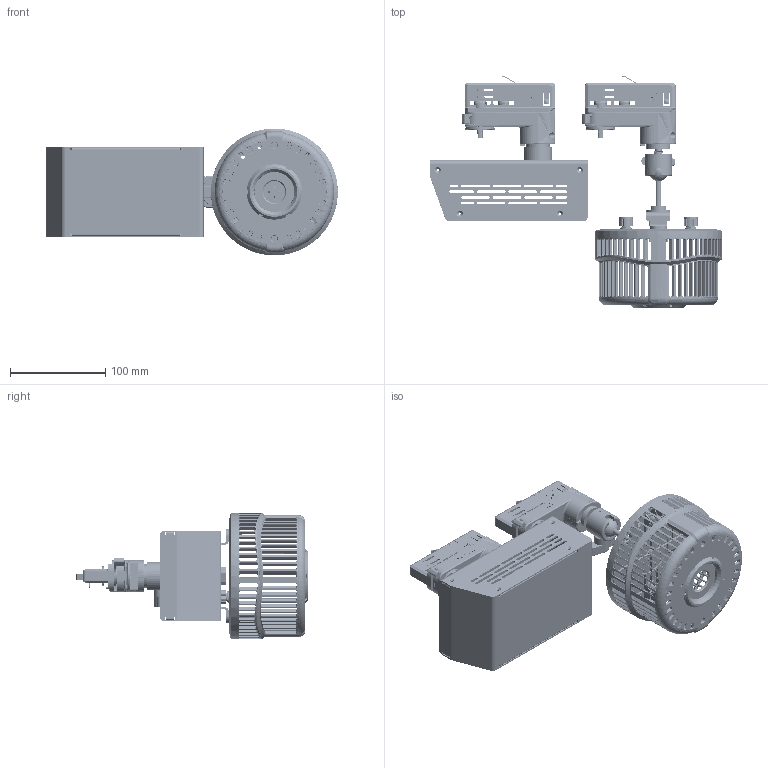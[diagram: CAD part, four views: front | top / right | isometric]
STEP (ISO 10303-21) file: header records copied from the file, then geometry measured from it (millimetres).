
FILE_DESCRIPTION (( 'STEP AP214' ), '1' );
FILE_NAME ('W500X-TOX-PS.STEP', '2024-01-31T17:34:29', ( '' ), ( '' ), 'SwSTEP 2.0', 'SolidWorks 2022', '' );
FILE_SCHEMA (( 'AUTOMOTIVE_DESIGN' ));
Length unit declared in the file: millimetre
Products named in the file (36): 5022427-XXX_A4_250W Power Box FRAME (TG&TEX&CLP TYPE), 165x95x64mm___; 5120522-XXX_A4_Assembly BOM, W360&W500 Light Mounting Type_TG; UL006___; 581-F.1___; UL002___; 5022424-XXX_A2_250W Power Box Cover (TG&TEX-PS&CLP&TJ TYPE), 165x92x62.5(H)mm___; 62282-5014005_ _Standard Types of Metric Set Screws, M4xL5, Black___; 5022693-XXX_A1_Bracket, 98.85x25x17.5, T=2.5mm___; 581-F___; 5022431-XXX_A1_Ball Joint Part A, L=23.7mm___; 5022708-XXX_A2_Ball Joint Axis, L=65.8mm___; W500X-TOX-PS; 5120530-XXX_A1_Assembly BOM, W500 Reflector Type_No Reflector; C007___; UL010___; 5120540-XXX_A1_Rear Panel, OD=133, T=13.65mm, W-Series_5120531-001 W500; 5020897-2010216520_ _Helical Spring Washer Customized___; BN_82427_3034251_cross_recessed_flat_countersunk_head_screw_2_2x10_Z_Stahl_einsatzgeh_S_drtet_400_HV___; 5120539-XXX_A1_Housing, OD=133, ID=121, T=78.1mm, For Reflector, Without Logo___; 581-F.2___; 5022405-XXX_A1_Wing Knob Screws, M6xL8.0mm_-001; 5022189_A1_Plate, OD=48, ID=23, T=2.0mm___; 5020757-002_A2_VR Washer, Kessil A360 Aquarium Light___; Track Adapter-120V 2Circuits (??)___; 5120529-XXX_A1_Assembly BOM, W500 Light Engine_Finish; 5022771-XXX_A1_RETAINING M10P1.5 FOR ONETRACK LIGHT SIDE OD25x19.8mm___; 5022770-XXX_A1_RETAINING COLLAR M10P1.0 FOR ONETRACK POWER BOX OD30x29.8mm___; 5010177-XXX_A2_Assembly BOM, Kessil W500_N-[TG]; UL003___; 5021926-XXX_A2_KNOB, 18T, OD=14.9, ID=6, L=10MM_C1; UL004___; 5021416_A1_Hex Nut, M10xP1.5, T8 SUS___; UL008___; 5120519-XXX_A3_Assembly BOM, Kessil W500 Power Box_TON(US)-PS; 5020757-001_A1_VR Nut, Kessil A360 Aquarium Light___; 5020893-2010525020_ _Flat Washer, M10, ID10.5 OD25.0, T2 SUS 304___
Assembly tree (40 placements, depth 5):
  W500X-TOX-PS
    5010177-XXX_A2_Assembly BOM, Kessil W500_N-[TG]
      5120529-XXX_A1_Assembly BOM, W500 Light Engine_Finish
        5120540-XXX_A1_Rear Panel, OD=133, T=13.65mm, W-Series_5120531-001 W500
        5020757-002_A2_VR Washer, Kessil A360 Aquarium Light___  x2
        5020757-001_A1_VR Nut, Kessil A360 Aquarium Light___  x2
        5021926-XXX_A2_KNOB, 18T, OD=14.9, ID=6, L=10MM_C1  x2
      5120530-XXX_A1_Assembly BOM, W500 Reflector Type_No Reflector
        5120539-XXX_A1_Housing, OD=133, ID=121, T=78.1mm, For Reflector, Without Logo___
        5022189_A1_Plate, OD=48, ID=23, T=2.0mm___
      5120522-XXX_A4_Assembly BOM, W360&W500 Light Mounting Type_TG
        5022431-XXX_A1_Ball Joint Part A, L=23.7mm___
        5022708-XXX_A2_Ball Joint Axis, L=65.8mm___
        62282-5014005_ _Standard Types of Metric Set Screws, M4xL5, Black___
        5022405-XXX_A1_Wing Knob Screws, M6xL8.0mm_-001
        5022693-XXX_A1_Bracket, 98.85x25x17.5, T=2.5mm___
        5022771-XXX_A1_RETAINING M10P1.5 FOR ONETRACK LIGHT SIDE OD25x19.8mm___
        Track Adapter-120V 2Circuits (??)___
          UL002___
          UL003___
          UL008___
          UL010___
          UL006___
          C007___
          581-F.2___
          581-F.1___
          581-F___
          BN_82427_3034251_cross_recessed_flat_countersunk_head_screw_2_2x10_Z_Stahl_einsatzgeh_S_drtet_400_HV___
          UL004___
        5020893-2010525020_ _Flat Washer, M10, ID10.5 OD25.0, T2 SUS 304___  x2
        5020897-2010216520_ _Helical Spring Washer Customized___
        5021416_A1_Hex Nut, M10xP1.5, T8 SUS___
    5120519-XXX_A3_Assembly BOM, Kessil W500 Power Box_TON(US)-PS
      5022427-XXX_A4_250W Power Box FRAME (TG&TEX&CLP TYPE), 165x95x64mm___
      5022770-XXX_A1_RETAINING COLLAR M10P1.0 FOR ONETRACK POWER BOX OD30x29.8mm___
      Track Adapter-120V 2Circuits (??)___
        UL002___
        UL003___
        UL008___
        UL010___
        UL006___
        C007___
        581-F.2___
        581-F.1___
        581-F___
        BN_82427_3034251_cross_recessed_flat_countersunk_head_screw_2_2x10_Z_Stahl_einsatzgeh_S_drtet_400_HV___
        UL004___
      5022424-XXX_A2_250W Power Box Cover (TG&TEX-PS&CLP&TJ TYPE), 165x92x62.5(H)mm___
Bounding box: 305.76 x 243.37 x 133 mm (x, y, z)
Volume: 273655 mm3; surface area: 405345.5 mm2
Topology: 40 solids, 70 shells, 15690 faces, 42998 edges, 27345 vertices
Faces by surface type: plane 7559, cylinder 4377, bspline 2739, cone 630, torus 361, sphere 24
Entity records: 507023 total; most frequent: CARTESIAN_POINT 249620, ORIENTED_EDGE 55012, DIRECTION 42185, EDGE_CURVE 27690, VERTEX_POINT 17610, AXIS2_PLACEMENT_3D 14219, VECTOR 13747, LINE 13747
